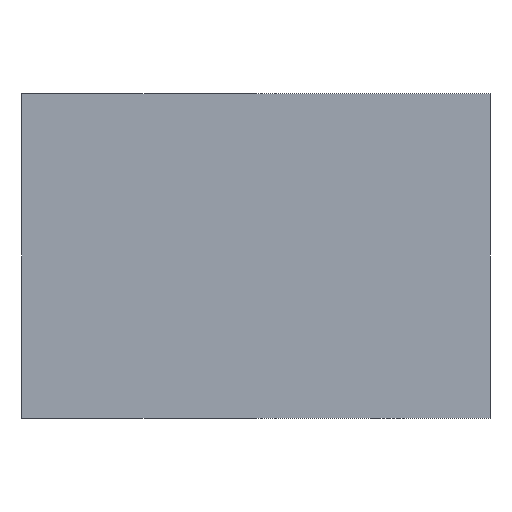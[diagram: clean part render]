
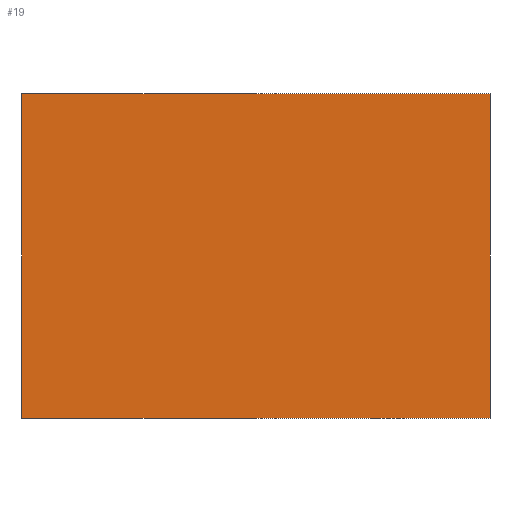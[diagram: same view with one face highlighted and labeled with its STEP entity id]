
A CAD part, left-side view. The second image highlights one B-rep face of the part: STEP entity #19.
In plain terms, the highlighted planar face has unit normal (-1, 0, 0).
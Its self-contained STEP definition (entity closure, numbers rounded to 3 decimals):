
#19 = ADVANCED_FACE ( 'NONE', ( #40 ), #860, .F. ) ;
#39 = VECTOR ( 'NONE', #807, 1000. ) ;
#40 = FACE_OUTER_BOUND ( 'NONE', #78, .T. ) ;
#48 = VERTEX_POINT ( 'NONE', #1166 ) ;
#78 = EDGE_LOOP ( 'NONE', ( #1028, #1209, #1271, #1348 ) ) ;
#96 = VECTOR ( 'NONE', #563, 1000. ) ;
#122 = VECTOR ( 'NONE', #1255, 1000. ) ;
#135 = VECTOR ( 'NONE', #144, 1000. ) ;
#144 = DIRECTION ( 'NONE',  ( 0., -1., 0. ) ) ;
#160 = CARTESIAN_POINT ( 'NONE',  ( -56., 35.5, 0. ) ) ;
#314 = DIRECTION ( 'NONE',  ( 0., 0., -1. ) ) ;
#316 = LINE ( 'NONE', #727, #135 ) ;
#329 = VERTEX_POINT ( 'NONE', #797 ) ;
#410 = LINE ( 'NONE', #795, #122 ) ;
#450 = CARTESIAN_POINT ( 'NONE',  ( -56., -35.5, 49.3 ) ) ;
#538 = VERTEX_POINT ( 'NONE', #160 ) ;
#563 = DIRECTION ( 'NONE',  ( 0., -1., 0. ) ) ;
#663 = LINE ( 'NONE', #450, #96 ) ;
#687 = EDGE_CURVE ( 'NONE', #1240, #48, #663, .T. ) ;
#727 = CARTESIAN_POINT ( 'NONE',  ( -56., -35.5, 0. ) ) ;
#795 = CARTESIAN_POINT ( 'NONE',  ( -56., -35.5, 49.3 ) ) ;
#797 = CARTESIAN_POINT ( 'NONE',  ( -56., -35.5, 0. ) ) ;
#807 = DIRECTION ( 'NONE',  ( 0., 0., -1. ) ) ;
#860 = PLANE ( 'NONE',  #1102 ) ;
#914 = CARTESIAN_POINT ( 'NONE',  ( -56., 35.5, 49.3 ) ) ;
#935 = CARTESIAN_POINT ( 'NONE',  ( -56., 35.5, 49.3 ) ) ;
#962 = CARTESIAN_POINT ( 'NONE',  ( -56., -35.5, 49.3 ) ) ;
#1028 = ORIENTED_EDGE ( 'NONE', *, *, #1289, .T. ) ;
#1046 = EDGE_CURVE ( 'NONE', #1240, #538, #1176, .T. ) ;
#1050 = DIRECTION ( 'NONE',  ( 1., 0., 0. ) ) ;
#1102 = AXIS2_PLACEMENT_3D ( 'NONE', #962, #1050, #314 ) ;
#1166 = CARTESIAN_POINT ( 'NONE',  ( -56., -35.5, 49.3 ) ) ;
#1176 = LINE ( 'NONE', #914, #39 ) ;
#1186 = EDGE_CURVE ( 'NONE', #48, #329, #410, .T. ) ;
#1209 = ORIENTED_EDGE ( 'NONE', *, *, #1186, .F. ) ;
#1240 = VERTEX_POINT ( 'NONE', #935 ) ;
#1255 = DIRECTION ( 'NONE',  ( 0., 0., -1. ) ) ;
#1271 = ORIENTED_EDGE ( 'NONE', *, *, #687, .F. ) ;
#1289 = EDGE_CURVE ( 'NONE', #538, #329, #316, .T. ) ;
#1348 = ORIENTED_EDGE ( 'NONE', *, *, #1046, .T. ) ;
